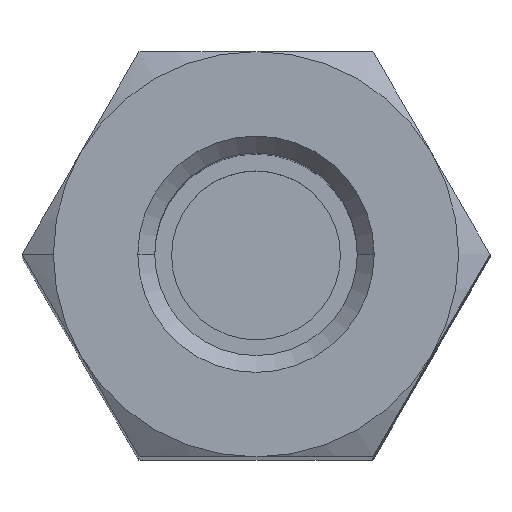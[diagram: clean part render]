
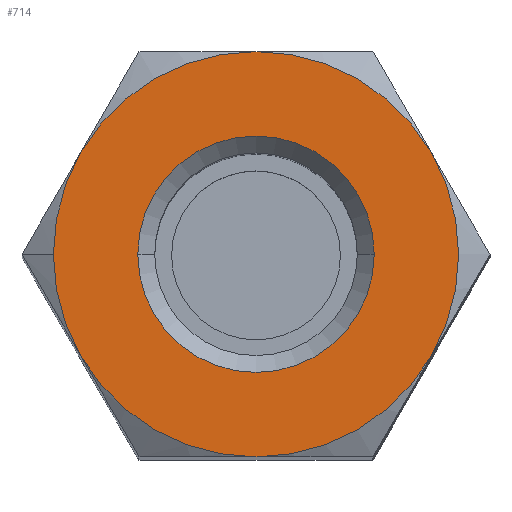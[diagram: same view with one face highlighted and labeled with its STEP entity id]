
A CAD part, top view. The second image highlights one B-rep face of the part: STEP entity #714.
In plain terms, the highlighted planar face has unit normal (0, 0, 1).
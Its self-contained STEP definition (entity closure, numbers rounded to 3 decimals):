
#19 = CARTESIAN_POINT ( 'NONE',  ( -1.75, 0., 15. ) ) ;
#37 = EDGE_CURVE ( 'NONE', #375, #414, #1080, .T. ) ;
#44 = ORIENTED_EDGE ( 'NONE', *, *, #450, .T. ) ;
#45 = CARTESIAN_POINT ( 'NONE',  ( 0., 0., 15. ) ) ;
#47 = CARTESIAN_POINT ( 'NONE',  ( -2.598, 1.5, 15. ) ) ;
#48 = CARTESIAN_POINT ( 'NONE',  ( 2.598, -1.5, 15. ) ) ;
#57 = EDGE_CURVE ( 'NONE', #499, #320, #259, .T. ) ;
#76 = DIRECTION ( 'NONE',  ( 1., 0., 0. ) ) ;
#98 = DIRECTION ( 'NONE',  ( -1., 0., 0. ) ) ;
#111 = AXIS2_PLACEMENT_3D ( 'NONE', #755, #231, #846 ) ;
#136 = CIRCLE ( 'NONE', #888, 3. ) ;
#146 = DIRECTION ( 'NONE',  ( -1., 0., 0. ) ) ;
#170 = AXIS2_PLACEMENT_3D ( 'NONE', #953, #1046, #146 ) ;
#197 = CARTESIAN_POINT ( 'NONE',  ( 0., 0., 15. ) ) ;
#200 = ORIENTED_EDGE ( 'NONE', *, *, #37, .T. ) ;
#212 = EDGE_CURVE ( 'NONE', #1091, #571, #136, .T. ) ;
#231 = DIRECTION ( 'NONE',  ( 0., 0., -1. ) ) ;
#253 = CARTESIAN_POINT ( 'NONE',  ( 0., 0., 15. ) ) ;
#259 = CIRCLE ( 'NONE', #317, 3. ) ;
#264 = AXIS2_PLACEMENT_3D ( 'NONE', #421, #1137, #76 ) ;
#275 = EDGE_CURVE ( 'NONE', #320, #660, #1018, .T. ) ;
#281 = CIRCLE ( 'NONE', #111, 1.75 ) ;
#317 = AXIS2_PLACEMENT_3D ( 'NONE', #197, #887, #995 ) ;
#320 = VERTEX_POINT ( 'NONE', #641 ) ;
#347 = ORIENTED_EDGE ( 'NONE', *, *, #739, .T. ) ;
#373 = AXIS2_PLACEMENT_3D ( 'NONE', #45, #843, #759 ) ;
#375 = VERTEX_POINT ( 'NONE', #549 ) ;
#390 = DIRECTION ( 'NONE',  ( -1., 0., 0. ) ) ;
#406 = FACE_BOUND ( 'NONE', #836, .T. ) ;
#408 = EDGE_LOOP ( 'NONE', ( #598, #935, #44, #940, #1109, #347, #1134 ) ) ;
#414 = VERTEX_POINT ( 'NONE', #19 ) ;
#421 = CARTESIAN_POINT ( 'NONE',  ( 0., 0., 15. ) ) ;
#450 = EDGE_CURVE ( 'NONE', #660, #1091, #523, .T. ) ;
#499 = VERTEX_POINT ( 'NONE', #47 ) ;
#513 = AXIS2_PLACEMENT_3D ( 'NONE', #609, #1048, #603 ) ;
#523 = CIRCLE ( 'NONE', #789, 3. ) ;
#548 = CIRCLE ( 'NONE', #170, 3. ) ;
#549 = CARTESIAN_POINT ( 'NONE',  ( 1.75, 0., 15. ) ) ;
#550 = CIRCLE ( 'NONE', #373, 3. ) ;
#557 = EDGE_CURVE ( 'NONE', #414, #375, #281, .T. ) ;
#559 = CARTESIAN_POINT ( 'NONE',  ( 0., 0., 15. ) ) ;
#571 = VERTEX_POINT ( 'NONE', #48 ) ;
#598 = ORIENTED_EDGE ( 'NONE', *, *, #57, .T. ) ;
#603 = DIRECTION ( 'NONE',  ( -1., 0., 0. ) ) ;
#609 = CARTESIAN_POINT ( 'NONE',  ( 0., 0., 15. ) ) ;
#618 = VERTEX_POINT ( 'NONE', #943 ) ;
#641 = CARTESIAN_POINT ( 'NONE',  ( -3., 0., 15. ) ) ;
#660 = VERTEX_POINT ( 'NONE', #868 ) ;
#669 = CARTESIAN_POINT ( 'NONE',  ( 0., 0., 15. ) ) ;
#700 = PLANE ( 'NONE',  #264 ) ;
#705 = DIRECTION ( 'NONE',  ( -1., 0., 0. ) ) ;
#709 = CARTESIAN_POINT ( 'NONE',  ( 0., 0., 15. ) ) ;
#714 = ADVANCED_FACE ( 'NONE', ( #406, #1143 ), #700, .F. ) ;
#737 = CIRCLE ( 'NONE', #1069, 3. ) ;
#739 = EDGE_CURVE ( 'NONE', #618, #919, #548, .T. ) ;
#748 = DIRECTION ( 'NONE',  ( 0., 0., 1. ) ) ;
#752 = DIRECTION ( 'NONE',  ( -1., 0., 0. ) ) ;
#755 = CARTESIAN_POINT ( 'NONE',  ( 0., 0., 15. ) ) ;
#759 = DIRECTION ( 'NONE',  ( -1., 0., 0. ) ) ;
#789 = AXIS2_PLACEMENT_3D ( 'NONE', #669, #748, #390 ) ;
#836 = EDGE_LOOP ( 'NONE', ( #200, #1130 ) ) ;
#843 = DIRECTION ( 'NONE',  ( 0., 0., 1. ) ) ;
#846 = DIRECTION ( 'NONE',  ( -1., 0., 0. ) ) ;
#851 = DIRECTION ( 'NONE',  ( 0., 0., -1. ) ) ;
#868 = CARTESIAN_POINT ( 'NONE',  ( -2.598, -1.5, 15. ) ) ;
#887 = DIRECTION ( 'NONE',  ( 0., 0., 1. ) ) ;
#888 = AXIS2_PLACEMENT_3D ( 'NONE', #253, #1060, #705 ) ;
#904 = DIRECTION ( 'NONE',  ( 0., 0., -1. ) ) ;
#918 = AXIS2_PLACEMENT_3D ( 'NONE', #709, #904, #98 ) ;
#919 = VERTEX_POINT ( 'NONE', #936 ) ;
#935 = ORIENTED_EDGE ( 'NONE', *, *, #275, .T. ) ;
#936 = CARTESIAN_POINT ( 'NONE',  ( 0., 3., 15. ) ) ;
#939 = EDGE_CURVE ( 'NONE', #499, #919, #737, .T. ) ;
#940 = ORIENTED_EDGE ( 'NONE', *, *, #212, .T. ) ;
#943 = CARTESIAN_POINT ( 'NONE',  ( 2.598, 1.5, 15. ) ) ;
#953 = CARTESIAN_POINT ( 'NONE',  ( 0., 0., 15. ) ) ;
#971 = EDGE_CURVE ( 'NONE', #571, #618, #550, .T. ) ;
#995 = DIRECTION ( 'NONE',  ( -1., 0., 0. ) ) ;
#1018 = CIRCLE ( 'NONE', #513, 3. ) ;
#1044 = CARTESIAN_POINT ( 'NONE',  ( 0., -3., 15. ) ) ;
#1046 = DIRECTION ( 'NONE',  ( 0., 0., 1. ) ) ;
#1048 = DIRECTION ( 'NONE',  ( 0., 0., 1. ) ) ;
#1060 = DIRECTION ( 'NONE',  ( 0., 0., 1. ) ) ;
#1069 = AXIS2_PLACEMENT_3D ( 'NONE', #559, #851, #752 ) ;
#1080 = CIRCLE ( 'NONE', #918, 1.75 ) ;
#1091 = VERTEX_POINT ( 'NONE', #1044 ) ;
#1109 = ORIENTED_EDGE ( 'NONE', *, *, #971, .T. ) ;
#1130 = ORIENTED_EDGE ( 'NONE', *, *, #557, .T. ) ;
#1134 = ORIENTED_EDGE ( 'NONE', *, *, #939, .F. ) ;
#1137 = DIRECTION ( 'NONE',  ( 0., 0., -1. ) ) ;
#1143 = FACE_OUTER_BOUND ( 'NONE', #408, .T. ) ;
